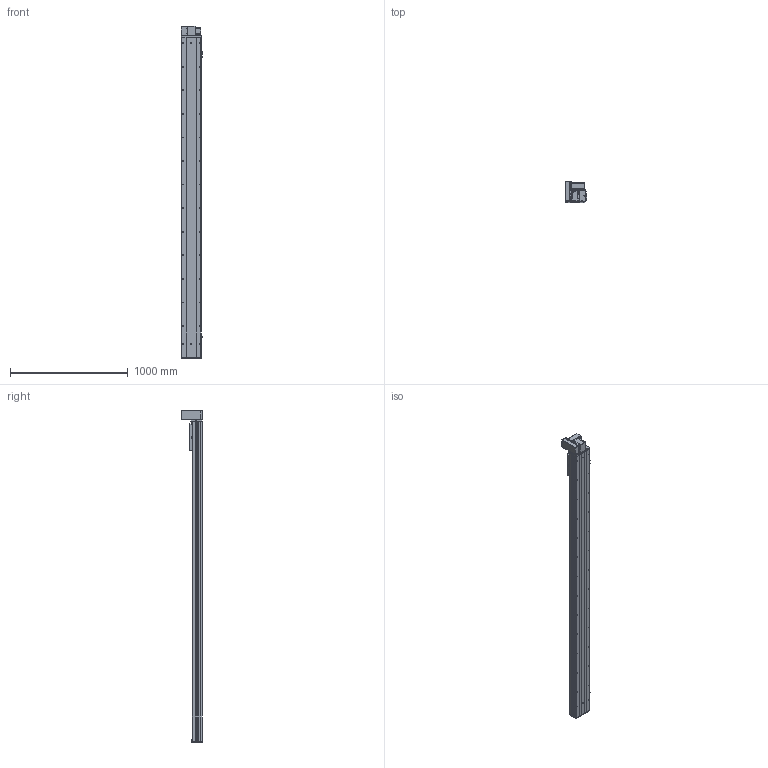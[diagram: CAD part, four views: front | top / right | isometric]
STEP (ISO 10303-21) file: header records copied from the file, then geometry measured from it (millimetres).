
FILE_DESCRIPTION (( 'STEP AP203' ), '1' );
FILE_NAME ('Y170CB-D105-S2400-UL-P400W.STEP', '2020-02-20T02:59:45', ( '微软用户' ), ( '微软中国' ), 'SwSTEP 2.0', 'SolidWorks 2017', '' );
FILE_SCHEMA (( 'CONFIG_CONTROL_DESIGN' ));
Length unit declared in the file: millimetre
Products named in the file (18): 70CB-詩湍--; san松下电机400不带刹车----; Y100-135俋离換覜ん--; 70CB-掛极-; Y170CB-陔俋离換覜結え---; --70CB --喘謫眊楊擘啣-; 70B喘謫眊----; 70CB-耜裔啣-; Y1埴倛裔; 70C--詩湍揤踡え-; 17B-耜蚾蟀諉啣----; 70CB--耜裔; 00B-俋欶BM--163; 70C-雄赽釱-奻-; B-源倛裔啣; Y170CB-D105-S2400-UL-P400W; 0C--雄赽釱俋欶-170; 0B-萇儂楊擘啣
Assembly tree (21 placements, depth 2):
  Y170CB-D105-S2400-UL-P400W
    B-源倛裔啣
    0B-萇儂楊擘啣
    san松下电机400不带刹车----
    70CB-掛极-
    --70CB --喘謫眊楊擘啣-
    70CB-耜裔啣-  x2
    70C--詩湍揤踡え-  x2
    70CB--耜裔
    70C-雄赽釱-奻-
    0C--雄赽釱俋欶-170
    70CB-詩湍--
    Y100-135俋离換覜ん--  x3
    Y170CB-陔俋离換覜結え---
    70B喘謫眊----
    Y1埴倛裔
    17B-耜蚾蟀諉啣----
    00B-俋欶BM--163
Bounding box: 183.5 x 174 x 2816 mm (x, y, z)
Volume: 12051841.1 mm3; surface area: 4350841.5 mm2
Topology: 21 solids, 21 shells, 1063 faces, 2861 edges, 1898 vertices
Faces by surface type: cylinder 577, plane 462, cone 24
Entity records: 34080 total; most frequent: CARTESIAN_POINT 6276, DIRECTION 5546, ORIENTED_EDGE 5204, EDGE_CURVE 2602, AXIS2_PLACEMENT_3D 2048, VERTEX_POINT 1728, VECTOR 1450, LINE 1450
